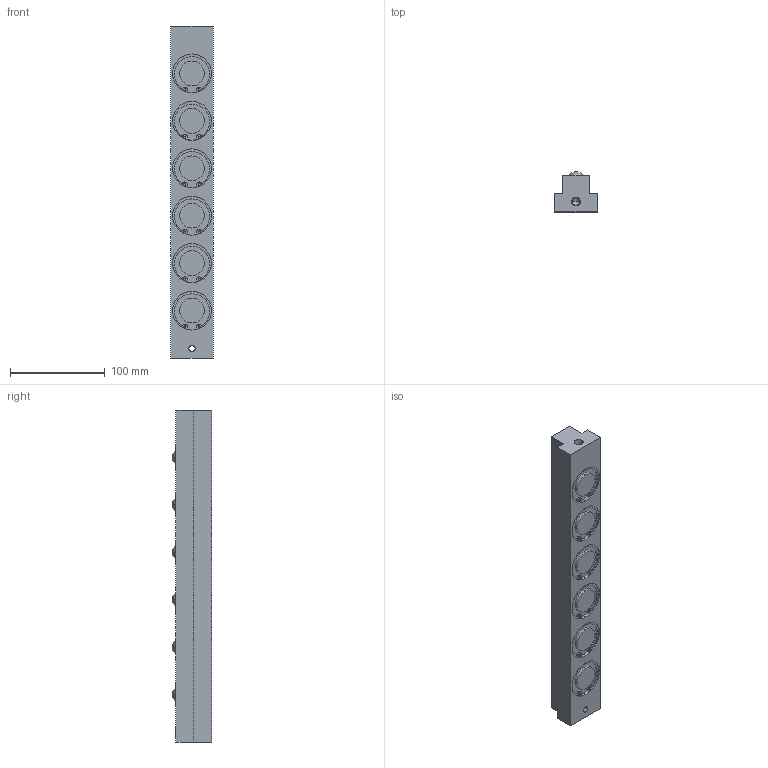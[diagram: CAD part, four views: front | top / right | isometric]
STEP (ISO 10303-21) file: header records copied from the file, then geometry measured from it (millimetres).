
FILE_DESCRIPTION (( 'STEP AP203' ), '1' );
FILE_NAME ('PVL50T-6.STEP', '2015-12-24T08:59:01', ( '' ), ( '' ), 'SwSTEP 2.0', 'SolidWorks 2013', '' );
FILE_SCHEMA (( 'CONFIG_CONTROL_DESIGN' ));
Length unit declared in the file: millimetre
Products named in the file (1): PVL50T-6
Bounding box: 45 x 42 x 350 mm (x, y, z)
Volume: 472328.5 mm3; surface area: 71242.9 mm2
Topology: 1 solids, 1 shells, 208 faces, 490 edges, 327 vertices
Faces by surface type: cylinder 126, plane 66, sphere 12, cone 4
Entity records: 6205 total; most frequent: DIRECTION 1198, CARTESIAN_POINT 1024, ORIENTED_EDGE 976, AXIS2_PLACEMENT_3D 501, EDGE_CURVE 488, VERTEX_POINT 327, CIRCLE 292, EDGE_LOOP 255
